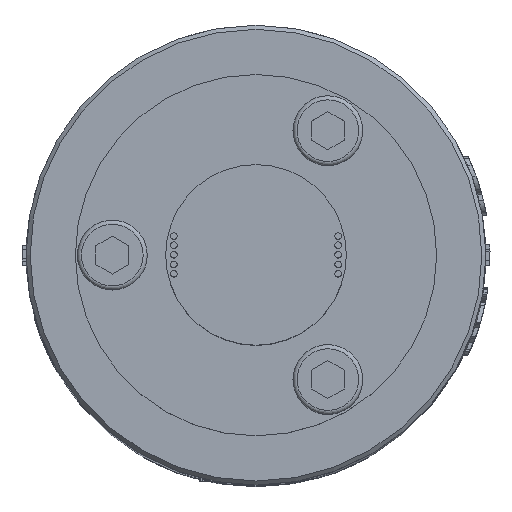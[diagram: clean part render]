
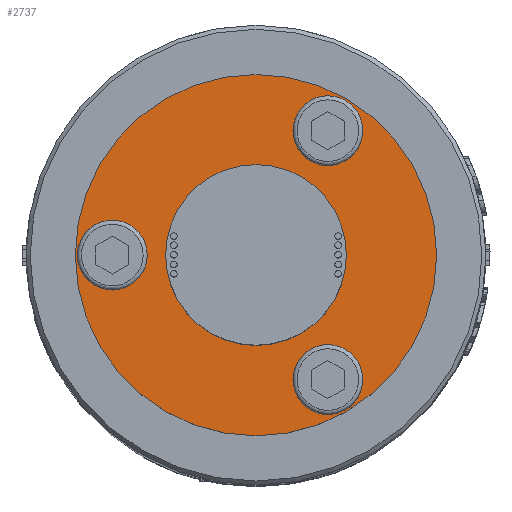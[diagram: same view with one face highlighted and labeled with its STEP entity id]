
A CAD part, top view. The second image highlights one B-rep face of the part: STEP entity #2737.
In plain terms, the highlighted planar face has unit normal (0, 0, 1).
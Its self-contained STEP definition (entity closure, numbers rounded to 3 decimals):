
#632=FACE_BOUND('',#5632,.T.);
#633=FACE_BOUND('',#5633,.T.);
#634=FACE_BOUND('',#5634,.T.);
#635=FACE_BOUND('',#5635,.T.);
#636=FACE_BOUND('',#5636,.T.);
#921=CIRCLE('',#21278,4.25);
#923=CIRCLE('',#21289,4.25);
#926=CIRCLE('',#21302,4.25);
#950=CIRCLE('',#21359,11.);
#951=CIRCLE('',#21361,22.);
#2737=ADVANCED_FACE('',(#632,#633,#634,#635,#636),#3252,.T.);
#3252=PLANE('',#21362);
#5632=EDGE_LOOP('',(#13027));
#5633=EDGE_LOOP('',(#13028));
#5634=EDGE_LOOP('',(#13029));
#5635=EDGE_LOOP('',(#13030));
#5636=EDGE_LOOP('',(#13031));
#13027=ORIENTED_EDGE('',*,*,#17870,.F.);
#13028=ORIENTED_EDGE('',*,*,#17884,.F.);
#13029=ORIENTED_EDGE('',*,*,#17905,.F.);
#13030=ORIENTED_EDGE('',*,*,#17948,.T.);
#13031=ORIENTED_EDGE('',*,*,#17947,.F.);
#15010=VERTEX_POINT('',#41710);
#15018=VERTEX_POINT('',#41741);
#15033=VERTEX_POINT('',#41787);
#15069=VERTEX_POINT('',#41898);
#15070=VERTEX_POINT('',#41901);
#17870=EDGE_CURVE('',#15010,#15010,#921,.T.);
#17884=EDGE_CURVE('',#15018,#15018,#923,.T.);
#17905=EDGE_CURVE('',#15033,#15033,#926,.T.);
#17947=EDGE_CURVE('',#15069,#15069,#950,.T.);
#17948=EDGE_CURVE('',#15070,#15070,#951,.T.);
#21278=AXIS2_PLACEMENT_3D('',#41709,#24218,#24219);
#21289=AXIS2_PLACEMENT_3D('',#41740,#24252,#24253);
#21302=AXIS2_PLACEMENT_3D('',#41786,#24296,#24297);
#21359=AXIS2_PLACEMENT_3D('',#41897,#24428,#24429);
#21361=AXIS2_PLACEMENT_3D('',#41900,#24432,#24433);
#21362=AXIS2_PLACEMENT_3D('',#41902,#24434,#24435);
#24218=DIRECTION('',(0.,0.,1.));
#24219=DIRECTION('',(-0.866,0.5,0.));
#24252=DIRECTION('',(0.,0.,1.));
#24253=DIRECTION('',(-0.866,0.5,0.));
#24296=DIRECTION('',(0.,0.,1.));
#24297=DIRECTION('',(-0.866,0.5,0.));
#24428=DIRECTION('',(0.,0.,1.));
#24429=DIRECTION('',(1.,0.,0.));
#24432=DIRECTION('',(0.,0.,1.));
#24433=DIRECTION('',(1.,0.,0.));
#24434=DIRECTION('',(0.,0.,1.));
#24435=DIRECTION('',(-1.,0.,0.));
#41709=CARTESIAN_POINT('',(8.75,-15.155,136.5));
#41710=CARTESIAN_POINT('',(5.069,-13.03,136.5));
#41740=CARTESIAN_POINT('',(8.75,15.155,136.5));
#41741=CARTESIAN_POINT('',(5.069,17.28,136.5));
#41786=CARTESIAN_POINT('',(-17.5,0.,136.5));
#41787=CARTESIAN_POINT('',(-21.181,2.125,136.5));
#41897=CARTESIAN_POINT('',(0.,0.,
136.5));
#41898=CARTESIAN_POINT('',(11.,0.,136.5));
#41900=CARTESIAN_POINT('',(0.,0.,
136.5));
#41901=CARTESIAN_POINT('',(22.,0.,136.5));
#41902=CARTESIAN_POINT('',(0.,0.,
136.5));
